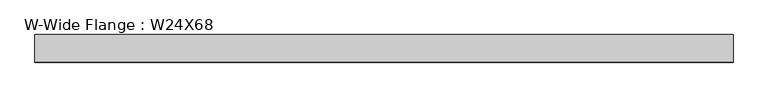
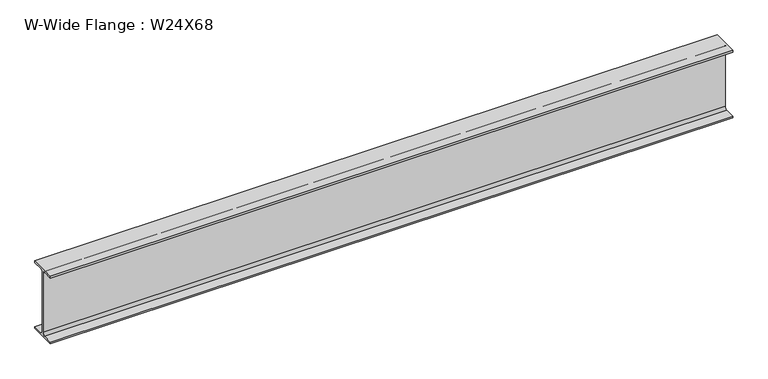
"""IFC4 building model written with IfcOpenShell, lengths in millimetres: beam geometry, W-Wide Flange : W24X68."""

from ifc_helpers import new_model, si_unit, point, frame, frame_2d, origin, place, context, project, spatial, polyline, circle_curve, trimmed, segment, composite_curve, outline, extrude, source, transform, mapped, element, save


def w_wide_flange_w24x68_bc0ab347(model_context):
    return source(origin(), model_context, "Body", "SweptSolid", [
        extrude(outline(composite_curve([segment(polyline([(-113.919, -286.131), (-28.5115, -286.131)]), True, "CONTINUOUS"), segment(trimmed(circle_curve(frame_2d((-28.5115, -262.89)), 23.241), [point((-28.5115, -286.131))], [point((-5.2705, -262.89))], True, "CARTESIAN"), True, "CONTINUOUS"), segment(polyline([(-5.2705, -262.89), (-5.2705, 262.89)]), True, "CONTINUOUS"), segment(trimmed(circle_curve(frame_2d((-28.5115, 262.89)), 23.241), [point((-5.2705, 262.89))], [point((-28.5115, 286.131))], True, "CARTESIAN"), True, "CONTINUOUS"), segment(polyline([(-28.5115, 286.131), (-113.919, 286.131), (-113.919, 300.99), (113.919, 300.99), (113.919, 286.131), (28.5115, 286.131)]), True, "CONTINUOUS"), segment(trimmed(circle_curve(frame_2d((28.5115, 262.89)), 23.241), [point((28.5115, 286.131))], [point((5.2705, 262.89))], True, "CARTESIAN"), True, "CONTINUOUS"), segment(polyline([(5.2705, 262.89), (5.2705, -262.89)]), True, "CONTINUOUS"), segment(trimmed(circle_curve(frame_2d((28.5115, -262.89)), 23.241), [point((5.2705, -262.89))], [point((28.5115, -286.131))], True, "CARTESIAN"), True, "CONTINUOUS"), segment(polyline([(28.5115, -286.131), (113.919, -286.131), (113.919, -300.99), (-113.919, -300.99), (-113.919, -286.131)]), True, "CONTINUOUS")], self_intersect=False)), frame((-2882.9, 0.0, 0.0), z_axis=(1.0, 0.0, 0.0), x_axis=(0.0, 1.0, 0.0)), (0.0, 0.0, 1.0), 5765.8),
    ])


if __name__ == "__main__":
    model = new_model("IFC4")
    model_context = context("Model", 3, world=origin())
    ifc_project = project(units=[si_unit("LENGTHUNIT", "METRE", prefix="MILLI")], contexts=[model_context])
    site = spatial("IfcSite", under=ifc_project)
    building = spatial("IfcBuilding", under=site)
    placement = place(None, origin())
    w_wide_flange_w24x68_shape = w_wide_flange_w24x68_bc0ab347(model_context)
    element("IfcBeam", 1, ObjectType="W-Wide Flange : W24X68", at=placement, inside=building, context=model_context, shape_type="MappedRepresentation", body=[
        mapped(w_wide_flange_w24x68_shape, transform((0.0, 0.0, 0.0), x_axis=(1.0, 0.0, 0.0), y_axis=(0.0, 1.0, 0.0), z_axis=(0.0, 0.0, 1.0))),
    ])
    save(model, "model.ifc")
